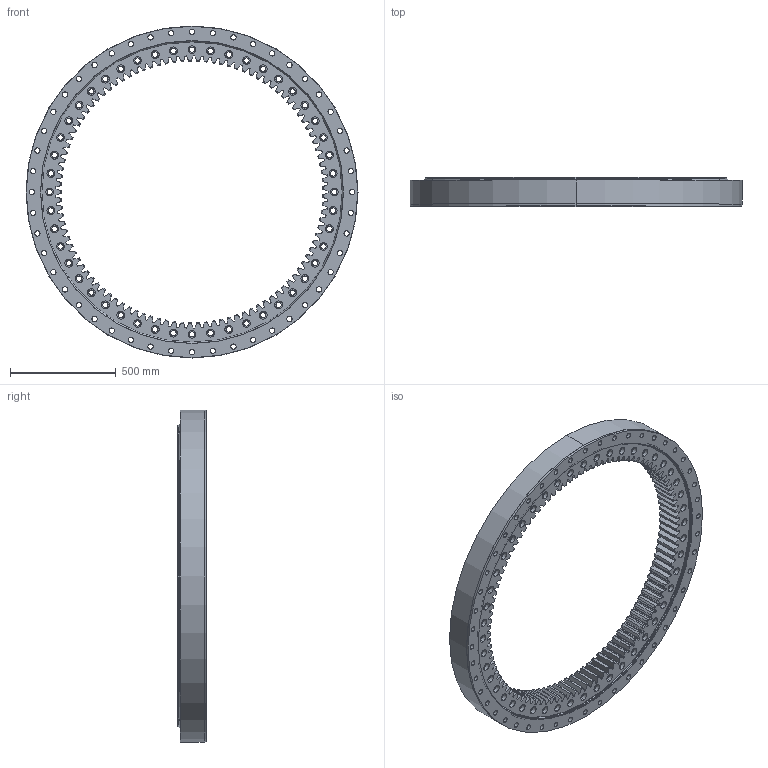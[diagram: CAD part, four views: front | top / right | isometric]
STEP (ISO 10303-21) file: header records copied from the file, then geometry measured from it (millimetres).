
FILE_DESCRIPTION (( 'STEP AP203' ), '1' );
FILE_NAME ('B2235-1-1570BB.STEP', '2022-07-08T08:35:52', ( '' ), ( '' ), 'SwSTEP 2.0', 'SolidWorks 2020', '' );
FILE_SCHEMA (( 'CONFIG_CONTROL_DESIGN' ));
Length unit declared in the file: millimetre
Products named in the file (1): B2235-1-1570BB
Bounding box: 1570 x 135 x 1570 mm (x, y, z)
Volume: 75958113.4 mm3; surface area: 5325978.3 mm2
Topology: 4 solids, 4 shells, 1259 faces, 3443 edges, 2294 vertices
Faces by surface type: plane 530, cylinder 511, cone 218
Entity records: 41120 total; most frequent: CARTESIAN_POINT 8257, ORIENTED_EDGE 6886, DIRECTION 6787, EDGE_CURVE 3443, AXIS2_PLACEMENT_3D 2504, VERTEX_POINT 2294, LINE 1779, VECTOR 1779
